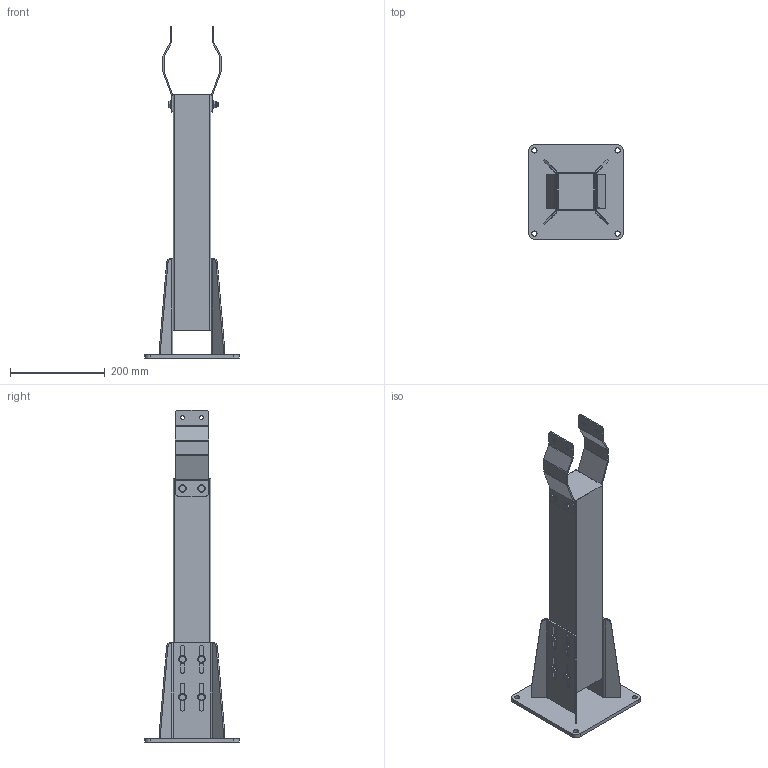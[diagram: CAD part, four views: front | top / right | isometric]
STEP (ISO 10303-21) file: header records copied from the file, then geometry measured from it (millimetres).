
FILE_DESCRIPTION(/* description */ ('LEG SUPPORT S530'),/* implementation_level */ '2;1');
FILE_NAME(/* name */ '500-1341.stp',/* time_stamp */ '2022-09-16T08:47:16+02:00',/* author */ ('PL'),/* organization */ ('CARRYLINE'),/* preprocessor_version */ 'ST-DEVELOPER v19.2',/* originating_system */ 'Autodesk Inventor 2023',/* authorisation */ '');
FILE_SCHEMA (('AUTOMOTIVE_DESIGN { 1 0 10303 214 3 1 1 }'));
Length unit declared in the file: millimetre
Products named in the file (11): 500-1341; 500-1230; 500-1030; 500-1131; 16757_2; 16757_1; 16757_3; 5500-816; 5540-8; 5501-8100; 5552-8
Assembly tree (33 placements, depth 3):
  500-1341
    500-1230  x2
    500-1030
    500-1131
      16757_1  x2
      16757_2
    16757_3  x2
    5540-8  x12
    5500-816  x8
    5501-8100  x2
    5552-8  x2
Bounding box: 200 x 200 x 702.56 mm (x, y, z)
Volume: 982320.7 mm3; surface area: 619924.6 mm2
Topology: 32 solids, 32 shells, 543 faces, 1276 edges, 818 vertices
Faces by surface type: plane 309, cylinder 156, cone 78
Full cylindrical faces by diameter (mm): 6.647 x14, 8 x10, 8.2 x8, 8.4 x12, 9 x12, 11 x4, 11.6 x2, 11.63 x10, 16 x12
Entity records: 7704 total; most frequent: CARTESIAN_POINT 1325, DIRECTION 1276, ORIENTED_EDGE 1186, EDGE_CURVE 593, AXIS2_PLACEMENT_3D 444, LINE 388, VECTOR 388, VERTEX_POINT 385
